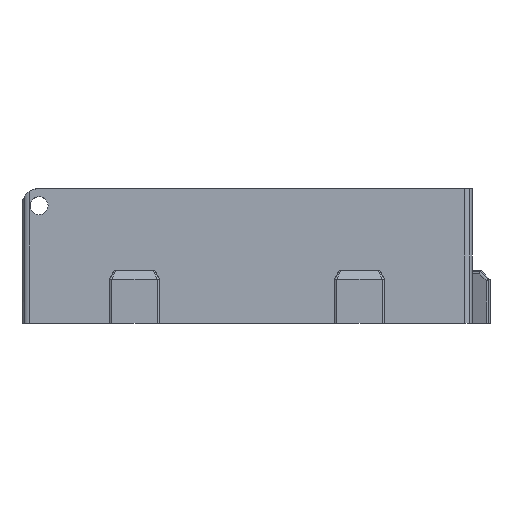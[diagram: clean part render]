
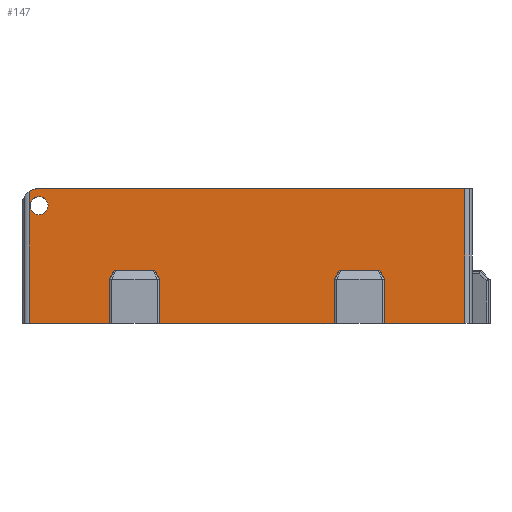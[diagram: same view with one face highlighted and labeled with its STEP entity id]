
A CAD part, front view. The second image highlights one B-rep face of the part: STEP entity #147.
In plain terms, the highlighted planar face has unit normal (0, -1, 0).
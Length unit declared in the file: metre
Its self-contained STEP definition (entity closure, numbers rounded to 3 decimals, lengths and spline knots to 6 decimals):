
#147=ADVANCED_FACE('28:75',(#551,#552),#553,.T.);
#551=FACE_OUTER_BOUND('',#1214,.T.);
#552=FACE_BOUND('',#1215,.T.);
#553=PLANE('',#1216);
#1214=EDGE_LOOP('',(#2374,#2375,#2376,#2377,#2378,#2379,#2380,#2381,#2382,#2383,#2384,#2385,#2386,#2387,#2388,#2389,#2390,#2391,#2392,#2393,#2394));
#1215=EDGE_LOOP('',(#2395,#2396));
#1216=AXIS2_PLACEMENT_3D('',#2397,#2398,#2399);
#2374=ORIENTED_EDGE('',*,*,#4884,.T.);
#2375=ORIENTED_EDGE('',*,*,#4885,.T.);
#2376=ORIENTED_EDGE('',*,*,#4692,.F.);
#2377=ORIENTED_EDGE('',*,*,#4886,.T.);
#2378=ORIENTED_EDGE('',*,*,#4887,.T.);
#2379=ORIENTED_EDGE('',*,*,#4655,.F.);
#2380=ORIENTED_EDGE('',*,*,#4888,.F.);
#2381=ORIENTED_EDGE('',*,*,#4889,.T.);
#2382=ORIENTED_EDGE('',*,*,#4658,.F.);
#2383=ORIENTED_EDGE('',*,*,#4890,.F.);
#2384=ORIENTED_EDGE('',*,*,#4891,.T.);
#2385=ORIENTED_EDGE('',*,*,#4892,.T.);
#2386=ORIENTED_EDGE('',*,*,#4893,.T.);
#2387=ORIENTED_EDGE('',*,*,#4783,.F.);
#2388=ORIENTED_EDGE('',*,*,#4894,.F.);
#2389=ORIENTED_EDGE('',*,*,#4895,.T.);
#2390=ORIENTED_EDGE('',*,*,#4777,.F.);
#2391=ORIENTED_EDGE('',*,*,#4896,.F.);
#2392=ORIENTED_EDGE('',*,*,#4897,.T.);
#2393=ORIENTED_EDGE('',*,*,#4898,.T.);
#2394=ORIENTED_EDGE('',*,*,#4715,.F.);
#2395=ORIENTED_EDGE('',*,*,#4653,.F.);
#2396=ORIENTED_EDGE('',*,*,#4899,.F.);
#2397=CARTESIAN_POINT('',(0.0,-0.03,0.0));
#2398=DIRECTION('',(0.0,-1.0,0.0));
#2399=DIRECTION('',(1.0,0.0,0.0));
#4653=EDGE_CURVE('28:627',#5822,#5816,#5824,.F.);
#4655=EDGE_CURVE('28:561',#5825,#5827,#5828,.F.);
#4658=EDGE_CURVE('28:600',#5830,#5832,#5833,.F.);
#4692=EDGE_CURVE('28:618',#5894,#5896,#5897,.T.);
#4715=EDGE_CURVE('37:1538',#5939,#5941,#5942,.T.);
#4777=EDGE_CURVE('37:1202',#6059,#6062,#6063,.F.);
#4783=EDGE_CURVE('37:1178',#6071,#6074,#6075,.F.);
#4884=EDGE_CURVE('28:612',#5939,#6252,#6253,.F.);
#4885=EDGE_CURVE('28:615',#6252,#5896,#6254,.T.);
#4886=EDGE_CURVE('28:621',#5894,#6255,#6256,.T.);
#4887=EDGE_CURVE('28:624',#6255,#5827,#6257,.T.);
#4888=EDGE_CURVE('28:561',#6258,#5825,#6259,.F.);
#4889=EDGE_CURVE('28:573',#6258,#5832,#6260,.F.);
#4890=EDGE_CURVE('28:600',#6261,#5830,#6262,.F.);
#4891=EDGE_CURVE('28:603',#6261,#6263,#6264,.T.);
#4892=EDGE_CURVE('28:606',#6263,#6265,#6266,.T.);
#4893=EDGE_CURVE('37:1502',#6265,#6074,#6267,.T.);
#4894=EDGE_CURVE('37:1178',#6268,#6071,#6269,.F.);
#4895=EDGE_CURVE('37:1175',#6268,#6062,#6270,.F.);
#4896=EDGE_CURVE('37:1202',#6271,#6059,#6272,.F.);
#4897=EDGE_CURVE('37:1532',#6271,#6273,#6274,.T.);
#4898=EDGE_CURVE('37:1535',#6273,#5941,#6275,.T.);
#4899=EDGE_CURVE('28:627',#5816,#5822,#6276,.F.);
#5816=VERTEX_POINT('',#7499);
#5822=VERTEX_POINT('',#7506);
#5824=CIRCLE('',#7509,0.001);
#5825=VERTEX_POINT('',#7510);
#5827=VERTEX_POINT('',#7513);
#5828=ELLIPSE('',#7514,0.000447,0.0004);
#5830=VERTEX_POINT('',#7517);
#5832=VERTEX_POINT('',#7520);
#5833=ELLIPSE('',#7521,0.000447,0.0004);
#5894=VERTEX_POINT('',#7642);
#5896=VERTEX_POINT('',#7644);
#5897=LINE('',#7645,#7646);
#5939=VERTEX_POINT('',#7730);
#5941=VERTEX_POINT('',#7732);
#5942=LINE('',#7733,#7734);
#6059=VERTEX_POINT('',#7925);
#6062=VERTEX_POINT('',#7929);
#6063=ELLIPSE('',#7930,0.000447,0.0004);
#6071=VERTEX_POINT('',#7951);
#6074=VERTEX_POINT('',#7955);
#6075=ELLIPSE('',#7956,0.000447,0.0004);
#6252=VERTEX_POINT('',#8261);
#6253=LINE('',#8262,#8263);
#6254=CIRCLE('',#8264,0.0019);
#6255=VERTEX_POINT('',#8265);
#6256=LINE('',#8266,#8267);
#6257=LINE('',#8268,#8269);
#6258=VERTEX_POINT('',#8270);
#6259=ELLIPSE('',#8271,0.000447,0.0004);
#6260=LINE('',#8272,#8273);
#6261=VERTEX_POINT('',#8274);
#6262=ELLIPSE('',#8275,0.000447,0.0004);
#6263=VERTEX_POINT('',#8276);
#6264=LINE('',#8277,#8278);
#6265=VERTEX_POINT('',#8279);
#6266=LINE('',#8280,#8281);
#6267=LINE('',#8282,#8283);
#6268=VERTEX_POINT('',#8284);
#6269=ELLIPSE('',#8285,0.000447,0.0004);
#6270=LINE('',#8286,#8287);
#6271=VERTEX_POINT('',#8288);
#6272=ELLIPSE('',#8289,0.000447,0.0004);
#6273=VERTEX_POINT('',#8290);
#6274=LINE('',#8291,#8292);
#6275=LINE('',#8293,#8294);
#6276=CIRCLE('',#8295,0.001);
#7499=CARTESIAN_POINT('',(-0.0116,-0.03,0.0131));
#7506=CARTESIAN_POINT('',(-0.0096,-0.03,0.0131));
#7509=AXIS2_PLACEMENT_3D('',#9831,#9832,#9833);
#7510=CARTESIAN_POINT('',(-0.001869,-0.03,0.005783));
#7513=CARTESIAN_POINT('',(-0.002,-0.03,0.0055));
#7514=AXIS2_PLACEMENT_3D('',#9835,#9836,#9837);
#7517=CARTESIAN_POINT('',(0.001869,-0.03,0.005783));
#7520=CARTESIAN_POINT('',(0.001553,-0.03,0.0059));
#7521=AXIS2_PLACEMENT_3D('',#9840,#9841,#9842);
#7642=CARTESIAN_POINT('',(-0.0117,-0.03,0.0));
#7644=CARTESIAN_POINT('',(-0.0117,-0.03,0.014649));
#7645=CARTESIAN_POINT('',(-0.0117,-0.03,0.0));
#7646=VECTOR('',#9900,1.0);
#7730=CARTESIAN_POINT('',(0.0367,-0.03,0.015));
#7732=CARTESIAN_POINT('',(0.0367,-0.03,0.0));
#7733=CARTESIAN_POINT('',(0.0367,-0.03,0.0));
#7734=VECTOR('',#9946,1.0);
#7925=CARTESIAN_POINT('',(0.026869,-0.03,0.005783));
#7929=CARTESIAN_POINT('',(0.026553,-0.03,0.0059));
#7930=AXIS2_PLACEMENT_3D('',#10052,#10053,#10054);
#7951=CARTESIAN_POINT('',(0.023131,-0.03,0.005783));
#7955=CARTESIAN_POINT('',(0.023,-0.03,0.0055));
#7956=AXIS2_PLACEMENT_3D('',#10060,#10061,#10062);
#8261=CARTESIAN_POINT('',(-0.0106,-0.03,0.015));
#8262=CARTESIAN_POINT('',(0.0,-0.03,0.015));
#8263=VECTOR('',#10230,1.0);
#8264=AXIS2_PLACEMENT_3D('',#10231,#10232,#10233);
#8265=CARTESIAN_POINT('',(-0.002,-0.03,0.0));
#8266=CARTESIAN_POINT('',(-0.0125,-0.03,0.0));
#8267=VECTOR('',#10234,1.0);
#8268=CARTESIAN_POINT('',(-0.002,-0.03,0.0));
#8269=VECTOR('',#10235,1.0);
#8270=CARTESIAN_POINT('',(-0.001553,-0.03,0.0059));
#8271=AXIS2_PLACEMENT_3D('',#10236,#10237,#10238);
#8272=CARTESIAN_POINT('',(0.0,-0.03,0.0059));
#8273=VECTOR('',#10239,1.0);
#8274=CARTESIAN_POINT('',(0.002,-0.03,0.0055));
#8275=AXIS2_PLACEMENT_3D('',#10240,#10241,#10242);
#8276=CARTESIAN_POINT('',(0.002,-0.03,0.0));
#8277=CARTESIAN_POINT('',(0.002,-0.03,0.0));
#8278=VECTOR('',#10243,1.0);
#8279=CARTESIAN_POINT('',(0.023,-0.03,0.0));
#8280=CARTESIAN_POINT('',(0.0125,-0.03,0.0));
#8281=VECTOR('',#10244,1.0);
#8282=CARTESIAN_POINT('',(0.023,-0.03,0.0));
#8283=VECTOR('',#10245,1.0);
#8284=CARTESIAN_POINT('',(0.023447,-0.03,0.0059));
#8285=AXIS2_PLACEMENT_3D('',#10246,#10247,#10248);
#8286=CARTESIAN_POINT('',(0.025,-0.03,0.0059));
#8287=VECTOR('',#10249,1.0);
#8288=CARTESIAN_POINT('',(0.027,-0.03,0.0055));
#8289=AXIS2_PLACEMENT_3D('',#10250,#10251,#10252);
#8290=CARTESIAN_POINT('',(0.027,-0.03,0.0));
#8291=CARTESIAN_POINT('',(0.027,-0.03,0.0));
#8292=VECTOR('',#10253,1.0);
#8293=CARTESIAN_POINT('',(0.0125,-0.03,0.0));
#8294=VECTOR('',#10254,1.0);
#8295=AXIS2_PLACEMENT_3D('',#10255,#10256,#10257);
#9831=CARTESIAN_POINT('',(-0.0106,-0.03,0.0131));
#9832=DIRECTION('',(0.0,1.0,0.0));
#9833=DIRECTION('',(-1.0,0.0,0.0));
#9835=CARTESIAN_POINT('',(-0.001553,-0.03,0.0055));
#9836=DIRECTION('',(0.0,1.0,0.0));
#9837=DIRECTION('',(-1.0,0.0,0.));
#9840=CARTESIAN_POINT('',(0.001553,-0.03,0.0055));
#9841=DIRECTION('',(-0.0,1.0,0.0));
#9842=DIRECTION('',(1.0,0.0,0.));
#9900=DIRECTION('',(0.0,0.0,1.0));
#9946=DIRECTION('',(0.0,0.0,-1.0));
#10052=CARTESIAN_POINT('',(0.026553,-0.03,0.0055));
#10053=DIRECTION('',(-0.0,1.0,0.0));
#10054=DIRECTION('',(1.0,0.0,0.));
#10060=CARTESIAN_POINT('',(0.023447,-0.03,0.0055));
#10061=DIRECTION('',(0.0,1.0,0.0));
#10062=DIRECTION('',(-1.0,0.0,0.));
#10230=DIRECTION('',(1.0,0.0,0.0));
#10231=CARTESIAN_POINT('',(-0.0106,-0.03,0.0131));
#10232=DIRECTION('',(0.0,-1.0,0.0));
#10233=DIRECTION('',(-1.0,0.0,0.0));
#10234=DIRECTION('',(1.0,0.0,0.0));
#10235=DIRECTION('',(0.0,0.0,1.0));
#10236=CARTESIAN_POINT('',(-0.001553,-0.03,0.0055));
#10237=DIRECTION('',(0.0,1.0,0.0));
#10238=DIRECTION('',(-1.0,0.0,0.));
#10239=DIRECTION('',(-1.0,-0.0,-0.0));
#10240=CARTESIAN_POINT('',(0.001553,-0.03,0.0055));
#10241=DIRECTION('',(-0.0,1.0,0.0));
#10242=DIRECTION('',(1.0,0.0,0.));
#10243=DIRECTION('',(0.0,0.0,-1.0));
#10244=DIRECTION('',(1.0,0.0,0.0));
#10245=DIRECTION('',(0.0,0.0,1.0));
#10246=CARTESIAN_POINT('',(0.023447,-0.03,0.0055));
#10247=DIRECTION('',(0.0,1.0,0.0));
#10248=DIRECTION('',(-1.0,0.0,0.));
#10249=DIRECTION('',(-1.0,-0.0,-0.0));
#10250=CARTESIAN_POINT('',(0.026553,-0.03,0.0055));
#10251=DIRECTION('',(-0.0,1.0,0.0));
#10252=DIRECTION('',(1.0,0.0,0.));
#10253=DIRECTION('',(0.0,0.0,-1.0));
#10254=DIRECTION('',(1.0,0.0,0.0));
#10255=CARTESIAN_POINT('',(-0.0106,-0.03,0.0131));
#10256=DIRECTION('',(0.0,1.0,0.0));
#10257=DIRECTION('',(-1.0,0.0,0.0));
